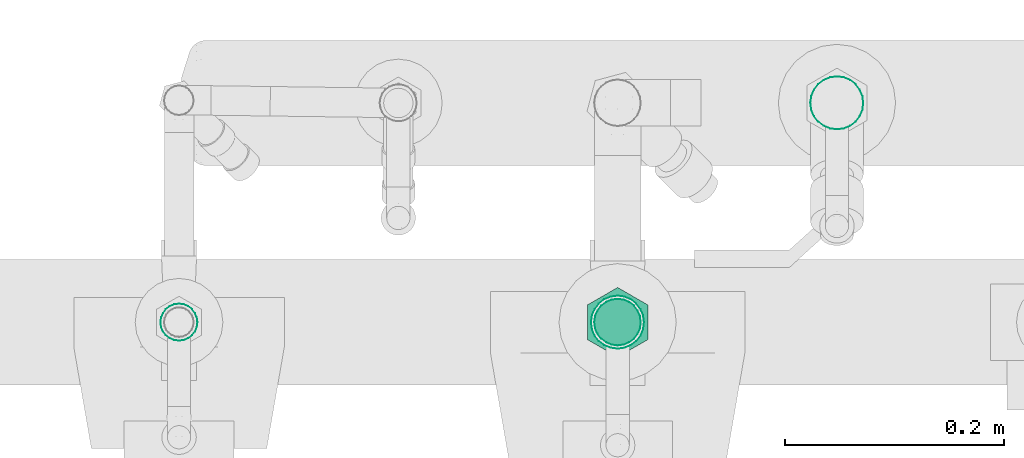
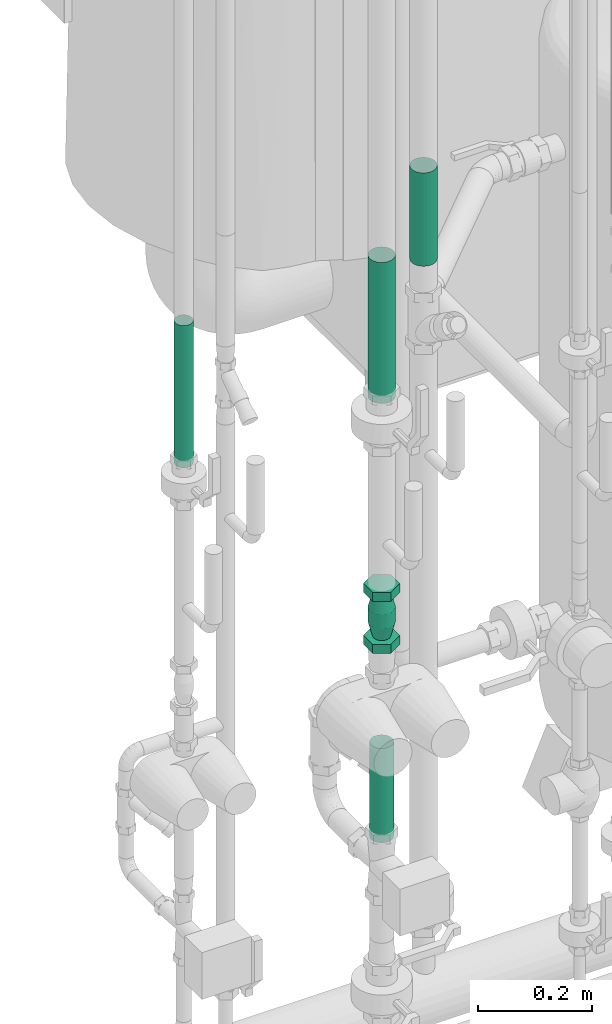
# One storey, part 254 of 374: 4 flow segments, 1 flow controller.
"""IFC2X3 building model written with IfcOpenShell, lengths in metres."""

from ifc_helpers import new_model, si_unit, direction, origin, place, context, subcontext, project, spatial, open_shell, surface_model, source, transform, mapped, element, save


model = new_model("IFC2X3")

# Units and contexts
model_context = context("Model", 3, precision=1e-05, world=origin(), true_north=direction((-0.4480736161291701, 0.8939966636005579)))
body_context = subcontext(model_context, "Body", "Model", "MODEL_VIEW")
ifc_project = project(units=[si_unit("LENGTHUNIT", "METRE"), si_unit("AREAUNIT", "SQUARE_METRE"), si_unit("VOLUMEUNIT", "CUBIC_METRE"), si_unit("PLANEANGLEUNIT", "RADIAN"), si_unit("THERMODYNAMICTEMPERATUREUNIT", "KELVIN"), si_unit("MASSUNIT", "GRAM", prefix="KILO"), si_unit("TIMEUNIT", "SECOND")], contexts=[model_context])

# Site, building, storey
site_placement = place(None, origin())
site = spatial("IfcSite", under=ifc_project, at=site_placement, Name="Site 1", CompositionType="ELEMENT")
building_placement = place(site_placement, origin())
building = spatial("IfcBuilding", under=site, at=building_placement, Name="Undefined", CompositionType="ELEMENT")
storey_placement = place(building_placement, origin())
storey = spatial("IfcBuildingStorey", under=building, at=storey_placement, Name="Rez de chauss\x8ee", CompositionType="ELEMENT", Elevation=0.0)

# Flow controller
shared_shape_1 = source(origin(), body_context, "Body", "SurfaceModel", [
    surface_model("IfcFaceBasedSurfaceModel", [(0.0, 0.0, 0.0), (0.03175426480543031, 0.0, 0.0), (0.03175426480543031, 0.019099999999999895, 0.0), (0.0, 0.019099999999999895, 0.0), (-0.015877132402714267, 0.0, 0.027499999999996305), (-0.015877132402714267, 0.019099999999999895, 0.027499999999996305), (0.0, 0.0, 0.054999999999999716), (0.0, 0.019099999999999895, 0.054999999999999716), (0.03175426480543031, 0.0, 0.054999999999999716), (0.03175426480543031, 0.019099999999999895, 0.054999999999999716), (0.04763139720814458, 0.0, 0.027499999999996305), (0.04763139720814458, 0.019099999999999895, 0.027499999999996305), (-0.0002228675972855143, 0.019099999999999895, 0.027499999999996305), (0.00032572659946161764, 0.019099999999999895, 0.031666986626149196), (-0.007449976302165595, 0.049699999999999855, 0.033750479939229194), (-0.00827286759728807, 0.049699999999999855, 0.027500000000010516), (0.001934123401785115, 0.019099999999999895, 0.03555000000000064), (-0.005037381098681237, 0.049699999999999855, 0.039575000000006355), (0.004492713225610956, 0.019099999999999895, 0.03888441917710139), (-0.0011994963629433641, 0.049699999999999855, 0.04457662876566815), (0.007827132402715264, 0.019099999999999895, 0.041443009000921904), (0.003802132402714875, 0.049699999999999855, 0.04841451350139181), (0.011710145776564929, 0.019099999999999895, 0.04305140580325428), (0.009626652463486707, 0.049699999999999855, 0.050827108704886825), (0.015877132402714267, 0.019099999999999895, 0.04359999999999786), (0.01587713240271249, 0.049699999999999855, 0.0516500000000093), (0.02004411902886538, 0.019099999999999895, 0.04305140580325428), (0.02212761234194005, 0.049699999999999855, 0.050827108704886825), (0.023927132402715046, 0.019099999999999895, 0.041443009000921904), (0.027952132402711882, 0.049699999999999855, 0.04841451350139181), (0.027261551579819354, 0.019099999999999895, 0.03888441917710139), (0.032953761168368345, 0.049699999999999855, 0.04457662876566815), (0.029820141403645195, 0.019099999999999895, 0.03555000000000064), (0.036791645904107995, 0.049699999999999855, 0.039575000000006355), (0.03142853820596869, 0.019099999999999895, 0.031666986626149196), (0.03920424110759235, 0.049699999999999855, 0.033750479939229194), (0.031977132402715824, 0.019099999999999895, 0.027499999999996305), (0.04002713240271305, 0.049699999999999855, 0.027500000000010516), (0.03142853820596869, 0.019099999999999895, 0.023333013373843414), (0.03920424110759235, 0.049699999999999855, 0.021249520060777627), (0.029820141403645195, 0.019099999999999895, 0.019449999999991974), (0.036791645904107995, 0.049699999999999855, 0.015425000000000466), (0.027261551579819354, 0.019099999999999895, 0.016115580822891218), (0.032953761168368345, 0.049699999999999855, 0.010423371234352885), (0.023927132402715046, 0.019099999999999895, 0.013556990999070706), (0.027952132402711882, 0.049699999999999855, 0.006585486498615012), (0.02004411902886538, 0.019099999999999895, 0.011948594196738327), (0.02212761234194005, 0.049699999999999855, 0.004172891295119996), (0.015877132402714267, 0.019099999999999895, 0.011400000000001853), (0.01587713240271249, 0.049699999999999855, 0.003350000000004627), (0.011710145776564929, 0.019099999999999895, 0.011948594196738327), (0.009626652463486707, 0.049699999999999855, 0.004172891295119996), (0.007827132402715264, 0.019099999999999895, 0.013556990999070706), (0.003802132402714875, 0.049699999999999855, 0.006585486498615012), (0.004492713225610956, 0.019099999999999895, 0.016115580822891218), (-0.0011994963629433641, 0.049699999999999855, 0.010423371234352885), (0.001934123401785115, 0.019099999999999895, 0.019449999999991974), (-0.005037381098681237, 0.049699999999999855, 0.015425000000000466), (0.00032572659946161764, 0.019099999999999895, 0.023333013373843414), (-0.007449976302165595, 0.049699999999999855, 0.021249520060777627), (0.022127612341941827, 0.08030000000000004, 0.050827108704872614), (0.015877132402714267, 0.08030000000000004, 0.051650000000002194), (0.027952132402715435, 0.08030000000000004, 0.04841451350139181), (0.03295376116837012, 0.08030000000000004, 0.04457662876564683), (0.03679164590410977, 0.08030000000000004, 0.039574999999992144), (0.039204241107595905, 0.08030000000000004, 0.03375047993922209), (0.04002713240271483, 0.08030000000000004, 0.027499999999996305), (0.039204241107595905, 0.08030000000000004, 0.02124952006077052), (0.03679164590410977, 0.08030000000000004, 0.015425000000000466), (0.03295376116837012, 0.08030000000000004, 0.01042337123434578), (0.027952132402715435, 0.08030000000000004, 0.006585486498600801), (0.022127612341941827, 0.08030000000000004, 0.004172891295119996), (0.015877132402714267, 0.08030000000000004, 0.0033499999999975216), (0.009626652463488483, 0.08030000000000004, 0.004172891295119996), (0.003802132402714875, 0.08030000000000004, 0.006585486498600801), (-0.0011994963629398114, 0.08030000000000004, 0.01042337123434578), (-0.005037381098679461, 0.08030000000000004, 0.015425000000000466), (-0.007449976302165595, 0.08030000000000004, 0.02124952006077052), (-0.008272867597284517, 0.08030000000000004, 0.027499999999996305), (-0.007449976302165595, 0.08030000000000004, 0.03375047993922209), (-0.005037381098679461, 0.08030000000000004, 0.039574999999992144), (-0.0011994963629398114, 0.08030000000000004, 0.04457662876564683), (0.003802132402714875, 0.08030000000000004, 0.04841451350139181), (0.009626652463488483, 0.08030000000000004, 0.050827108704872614), (0.0003257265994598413, 0.11089999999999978, 0.031666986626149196), (-0.0002228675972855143, 0.11089999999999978, 0.027499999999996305), (0.001934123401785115, 0.11089999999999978, 0.03555000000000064), (0.004492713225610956, 0.11089999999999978, 0.03888441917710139), (0.007827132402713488, 0.11089999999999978, 0.04144300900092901), (0.011710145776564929, 0.11089999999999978, 0.04305140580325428), (0.015877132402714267, 0.11089999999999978, 0.04360000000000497), (0.02004411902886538, 0.11089999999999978, 0.04305140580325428), (0.023927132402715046, 0.11089999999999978, 0.04144300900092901), (0.027261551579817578, 0.11089999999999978, 0.03888441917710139), (0.029820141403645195, 0.11089999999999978, 0.03555000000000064), (0.03142853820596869, 0.11089999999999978, 0.031666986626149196), (0.03197713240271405, 0.11089999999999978, 0.027499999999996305), (0.03142853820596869, 0.11089999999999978, 0.023333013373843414), (0.029820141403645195, 0.11089999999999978, 0.01944999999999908), (0.027261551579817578, 0.11089999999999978, 0.016115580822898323), (0.023927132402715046, 0.11089999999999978, 0.013556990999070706), (0.02004411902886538, 0.11089999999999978, 0.011948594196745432), (0.015877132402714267, 0.11089999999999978, 0.011400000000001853), (0.011710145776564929, 0.11089999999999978, 0.011948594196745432), (0.007827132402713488, 0.11089999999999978, 0.013556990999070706), (0.004492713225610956, 0.11089999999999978, 0.016115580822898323), (0.001934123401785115, 0.11089999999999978, 0.01944999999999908), (0.0003257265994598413, 0.11089999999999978, 0.023333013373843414), (0.0, 0.1109, 0.0), (0.03175426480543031, 0.1109, 0.0), (0.03175426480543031, 0.1299999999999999, 0.0), (0.0, 0.1299999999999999, 0.0), (-0.015877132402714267, 0.1109, 0.027499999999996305), (-0.015877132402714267, 0.1299999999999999, 0.027499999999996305), (0.0, 0.1109, 0.054999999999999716), (0.0, 0.1299999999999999, 0.054999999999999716), (0.03175426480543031, 0.1109, 0.054999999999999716), (0.03175426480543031, 0.1299999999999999, 0.054999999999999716), (0.04763139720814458, 0.1109, 0.027499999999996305), (0.04763139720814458, 0.1299999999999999, 0.027499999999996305)], [open_shell([[[0, 1, 2, 3]], [[4, 0, 3, 5]], [[6, 4, 5, 7]], [[8, 6, 7, 9]], [[10, 8, 9, 11]], [[1, 10, 11, 2]], [[1, 0, 4]], [[1, 4, 6]], [[1, 6, 8]], [[1, 8, 10]], [[2, 5, 3]], [[2, 7, 5]], [[2, 9, 7]], [[2, 11, 9]], [[12, 13, 14, 15]], [[13, 16, 17, 14]], [[16, 18, 19, 17]], [[18, 20, 21, 19]], [[20, 22, 23, 21]], [[22, 24, 25, 23]], [[24, 26, 27, 25]], [[26, 28, 29, 27]], [[28, 30, 31, 29]], [[30, 32, 33, 31]], [[32, 34, 35, 33]], [[34, 36, 37, 35]], [[36, 38, 39, 37]], [[38, 40, 41, 39]], [[40, 42, 43, 41]], [[42, 44, 45, 43]], [[44, 46, 47, 45]], [[46, 48, 49, 47]], [[48, 50, 51, 49]], [[50, 52, 53, 51]], [[52, 54, 55, 53]], [[54, 56, 57, 55]], [[56, 58, 59, 57]], [[58, 12, 15, 59]], [[25, 27, 60, 61]], [[27, 29, 62, 60]], [[29, 31, 63, 62]], [[31, 33, 64, 63]], [[33, 35, 65, 64]], [[35, 37, 66, 65]], [[37, 39, 67, 66]], [[39, 41, 68, 67]], [[41, 43, 69, 68]], [[43, 45, 70, 69]], [[45, 47, 71, 70]], [[47, 49, 72, 71]], [[49, 51, 73, 72]], [[51, 53, 74, 73]], [[53, 55, 75, 74]], [[55, 57, 76, 75]], [[57, 59, 77, 76]], [[59, 15, 78, 77]], [[15, 14, 79, 78]], [[14, 17, 80, 79]], [[17, 19, 81, 80]], [[19, 21, 82, 81]], [[21, 23, 83, 82]], [[23, 25, 61, 83]], [[78, 79, 84, 85]], [[79, 80, 86, 84]], [[80, 81, 87, 86]], [[81, 82, 88, 87]], [[82, 83, 89, 88]], [[83, 61, 90, 89]], [[61, 60, 91, 90]], [[60, 62, 92, 91]], [[62, 63, 93, 92]], [[63, 64, 94, 93]], [[64, 65, 95, 94]], [[65, 66, 96, 95]], [[66, 67, 97, 96]], [[67, 68, 98, 97]], [[68, 69, 99, 98]], [[69, 70, 100, 99]], [[70, 71, 101, 100]], [[71, 72, 102, 101]], [[72, 73, 103, 102]], [[73, 74, 104, 103]], [[74, 75, 105, 104]], [[75, 76, 106, 105]], [[76, 77, 107, 106]], [[77, 78, 85, 107]], [[108, 109, 110, 111]], [[112, 108, 111, 113]], [[114, 112, 113, 115]], [[116, 114, 115, 117]], [[118, 116, 117, 119]], [[109, 118, 119, 110]], [[109, 108, 112]], [[109, 112, 114]], [[109, 114, 116]], [[109, 116, 118]], [[110, 113, 111]], [[110, 115, 113]], [[110, 117, 115]], [[110, 119, 117]]])]),
])
flow_controller_placement = place(storey_placement, origin())
element("IfcFlowController", 1, at=flow_controller_placement, inside=storey, Name="Clapet de retenue", ObjectType="Clapet de retenue", context=body_context, shape_type="MappedRepresentation", body=[
    mapped(shared_shape_1, transform((52.4850620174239, 10.733914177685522, 1.2370475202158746), x_axis=(0.0, -1.0, 0.0), y_axis=(0.0, 0.0, 1.0), z_axis=(-1.0, 0.0, 0.0))),
])

# Flow segments
shared_shape_2 = source(origin(), body_context, "Body", "SurfaceModel", [
    surface_model("IfcFaceBasedSurfaceModel", [(0.0, 0.006304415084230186, 7.105427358e-15), (0.0, 0.0, 0.0), (0.3016388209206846, 8.8817842e-16, 7.105427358e-15), (0.3016388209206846, 0.006304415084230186, 7.105427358e-15), (0.0, -0.006089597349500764, -0.0016317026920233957), (0.3016388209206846, -0.006089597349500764, -0.0016317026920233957), (0.0, -0.011549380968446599, -0.004783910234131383), (0.3016388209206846, -0.011549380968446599, -0.004783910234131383), (0.0, -0.016007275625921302, -0.009241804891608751), (0.3016388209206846, -0.016007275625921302, -0.009241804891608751), (0.0, -0.01915948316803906, -0.014701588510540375), (0.3016388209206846, -0.01915948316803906, -0.014701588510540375), (0.0, -0.020791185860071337, -0.020791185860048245), (0.3016388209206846, -0.020791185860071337, -0.020791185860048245), (0.0, -0.020791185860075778, -0.027095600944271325), (0.3016388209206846, -0.020791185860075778, -0.027095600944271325), (0.0, -0.01915948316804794, -0.03318519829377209), (0.3016388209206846, -0.01915948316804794, -0.03318519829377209), (0.0, -0.01600727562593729, -0.038644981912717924), (0.3016388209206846, -0.01600727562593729, -0.038644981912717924), (0.0, -0.011549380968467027, -0.0431028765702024), (0.3016388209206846, -0.011549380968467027, -0.0431028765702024), (0.0, -0.006089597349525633, -0.04625508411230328), (0.3016388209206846, -0.006089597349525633, -0.04625508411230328), (0.0, -2.4868995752e-14, -0.04788678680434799), (0.3016388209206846, -2.4868995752e-14, -0.04788678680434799), (0.0, 0.006304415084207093, -0.047886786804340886), (0.3016388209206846, 0.006304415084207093, -0.047886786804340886), (0.0, 0.012394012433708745, -0.046255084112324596), (0.3016388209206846, 0.012394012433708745, -0.046255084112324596), (0.0, 0.01785379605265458, -0.0431028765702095), (0.3016388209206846, 0.01785379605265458, -0.0431028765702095), (0.0, 0.022311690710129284, -0.03864498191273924), (0.3016388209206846, 0.022311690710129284, -0.03864498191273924), (0.0, 0.02546389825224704, -0.03318519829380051), (0.3016388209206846, 0.02546389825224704, -0.03318519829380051), (0.0, 0.02709560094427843, -0.027095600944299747), (0.3016388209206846, 0.02709560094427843, -0.027095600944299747), (0.0, 0.02709560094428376, -0.02079118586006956), (0.3016388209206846, 0.02709560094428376, -0.02079118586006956), (0.0, 0.025463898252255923, -0.014701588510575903), (0.3016388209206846, 0.025463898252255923, -0.014701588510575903), (0.0, 0.02231169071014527, -0.009241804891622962), (0.3016388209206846, 0.02231169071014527, -0.009241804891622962), (0.0, 0.01785379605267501, -0.004783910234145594), (0.3016388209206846, 0.01785379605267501, -0.004783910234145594), (0.0, 0.012394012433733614, -0.0016317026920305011), (0.3016388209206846, 0.012394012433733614, -0.0016317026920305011)], [open_shell([[[0, 1, 2, 3]], [[1, 4, 5, 2]], [[4, 6, 7, 5]], [[6, 8, 9, 7]], [[8, 10, 11, 9]], [[10, 12, 13, 11]], [[12, 14, 15, 13]], [[14, 16, 17, 15]], [[16, 18, 19, 17]], [[18, 20, 21, 19]], [[20, 22, 23, 21]], [[22, 24, 25, 23]], [[24, 26, 27, 25]], [[26, 28, 29, 27]], [[28, 30, 31, 29]], [[30, 32, 33, 31]], [[32, 34, 35, 33]], [[34, 36, 37, 35]], [[36, 38, 39, 37]], [[38, 40, 41, 39]], [[40, 42, 43, 41]], [[42, 44, 45, 43]], [[44, 46, 47, 45]], [[46, 0, 3, 47]]])]),
])
flow_segment_1_placement = place(storey_placement, origin())
element("IfcFlowSegment", 2, at=flow_segment_1_placement, inside=storey, Name="Tube acier d'après DIN 2448", ObjectType="Tube acier d'après DIN 2448", context=body_context, shape_type="MappedRepresentation", body=[
    mapped(shared_shape_2, transform((52.48088912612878, 10.724287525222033, 1.767889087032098), x_axis=(0.0, 0.0, 1.0), y_axis=(0.13052619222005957, -0.9914448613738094, 0.0), z_axis=(0.9914448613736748, 0.13052619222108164, 0.0))),
])
shared_shape_3 = source(origin(), body_context, "Body", "SurfaceModel", [
    surface_model("IfcFaceBasedSurfaceModel", [(0.0, 0.006304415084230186, 7.105427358e-15), (0.0, 0.0, 0.0), (0.19952957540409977, 8.8817842e-16, 0.0), (0.19952957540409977, 0.00630441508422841, 0.0), (0.0, -0.006089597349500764, -0.0016317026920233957), (0.19952957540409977, -0.006089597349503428, -0.0016317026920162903), (0.0, -0.011549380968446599, -0.004783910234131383), (0.19952957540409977, -0.011549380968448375, -0.004783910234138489), (0.0, -0.016007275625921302, -0.009241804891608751), (0.19952957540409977, -0.016007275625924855, -0.009241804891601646), (0.0, -0.01915948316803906, -0.014701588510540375), (0.19952957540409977, -0.019159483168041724, -0.014701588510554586), (0.0, -0.020791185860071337, -0.020791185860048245), (0.19952957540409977, -0.02079118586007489, -0.020791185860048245), (0.0, -0.020791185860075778, -0.027095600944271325), (0.19952957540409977, -0.020791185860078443, -0.02709560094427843), (0.0, -0.01915948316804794, -0.03318519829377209), (0.19952957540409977, -0.019159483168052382, -0.033185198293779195), (0.0, -0.01600727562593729, -0.038644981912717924), (0.19952957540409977, -0.016007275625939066, -0.03864498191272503), (0.0, -0.011549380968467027, -0.0431028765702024), (0.19952957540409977, -0.011549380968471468, -0.0431028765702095), (0.0, -0.006089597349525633, -0.04625508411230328), (0.19952957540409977, -0.006089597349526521, -0.04625508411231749), (0.0, -2.4868995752e-14, -0.04788678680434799), (0.19952957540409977, -2.6645352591e-14, -0.0478867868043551), (0.0, 0.006304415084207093, -0.047886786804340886), (0.19952957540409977, 0.0063044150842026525, -0.0478867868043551), (0.0, 0.012394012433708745, -0.046255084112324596), (0.19952957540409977, 0.012394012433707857, -0.04625508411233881), (0.0, 0.01785379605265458, -0.0431028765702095), (0.19952957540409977, 0.017853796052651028, -0.04310287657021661), (0.0, 0.022311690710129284, -0.03864498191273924), (0.19952957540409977, 0.022311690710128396, -0.038644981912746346), (0.0, 0.02546389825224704, -0.03318519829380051), (0.19952957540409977, 0.025463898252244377, -0.033185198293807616), (0.0, 0.02709560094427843, -0.027095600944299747), (0.19952957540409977, 0.027095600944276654, -0.027095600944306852), (0.0, 0.02709560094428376, -0.02079118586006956), (0.19952957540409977, 0.027095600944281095, -0.020791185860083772), (0.0, 0.025463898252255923, -0.014701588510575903), (0.19952957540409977, 0.025463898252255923, -0.014701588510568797), (0.0, 0.02231169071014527, -0.009241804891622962), (0.19952957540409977, 0.02231169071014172, -0.009241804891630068), (0.0, 0.01785379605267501, -0.004783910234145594), (0.19952957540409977, 0.017853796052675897, -0.004783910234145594), (0.0, 0.012394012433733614, -0.0016317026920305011), (0.19952957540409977, 0.012394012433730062, -0.0016317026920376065)], [open_shell([[[0, 1, 2, 3]], [[1, 4, 5, 2]], [[4, 6, 7, 5]], [[6, 8, 9, 7]], [[8, 10, 11, 9]], [[10, 12, 13, 11]], [[12, 14, 15, 13]], [[14, 16, 17, 15]], [[16, 18, 19, 17]], [[18, 20, 21, 19]], [[20, 22, 23, 21]], [[22, 24, 25, 23]], [[24, 26, 27, 25]], [[26, 28, 29, 27]], [[28, 30, 31, 29]], [[30, 32, 33, 31]], [[32, 34, 35, 33]], [[34, 36, 37, 35]], [[36, 38, 39, 37]], [[38, 40, 41, 39]], [[40, 42, 43, 41]], [[42, 44, 45, 43]], [[44, 46, 47, 45]], [[46, 0, 3, 47]]])]),
])
flow_segment_2_placement = place(storey_placement, origin())
element("IfcFlowSegment", 3, at=flow_segment_2_placement, inside=storey, Name="Tube acier d'après DIN 2448", ObjectType="Tube acier d'après DIN 2448", context=body_context, shape_type="MappedRepresentation", body=[
    mapped(shared_shape_3, transform((52.68088912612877, 10.924287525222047, 1.8699983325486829), x_axis=(0.0, 0.0, 1.0), y_axis=(0.13052619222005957, -0.9914448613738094, 0.0), z_axis=(0.9914448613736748, 0.13052619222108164, 0.0))),
])
shared_shape_4 = source(origin(), body_context, "Body", "SurfaceModel", [
    surface_model("IfcFaceBasedSurfaceModel", [(0.0, 0.004398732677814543, 0.0), (0.0, 0.0, 0.0), (0.3038388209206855, -8.8817842e-16, 0.0), (0.3038388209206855, 0.004398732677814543, 0.0), (0.0, -0.004248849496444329, -0.00113847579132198), (0.3038388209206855, -0.004248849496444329, -0.00113847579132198), (0.0, -0.008058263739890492, -0.003337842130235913), (0.3038388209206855, -0.008058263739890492, -0.003337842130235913), (0.0, -0.01116863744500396, -0.0064482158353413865), (0.3038388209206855, -0.01116863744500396, -0.0064482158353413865), (0.0, -0.013368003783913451, -0.010257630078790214), (0.3038388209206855, -0.013368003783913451, -0.010257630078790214), (0.0, -0.014506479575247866, -0.014506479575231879), (0.3038388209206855, -0.014506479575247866, -0.014506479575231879), (0.0, -0.01450647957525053, -0.01890521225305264), (0.3038388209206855, -0.01450647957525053, -0.01890521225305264), (0.0, -0.013368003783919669, -0.023154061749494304), (0.3038388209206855, -0.013368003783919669, -0.023154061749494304), (0.0, -0.011168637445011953, -0.02696347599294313), (0.3038388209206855, -0.011168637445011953, -0.02696347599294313), (0.0, -0.008058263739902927, -0.03007384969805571), (0.3038388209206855, -0.008058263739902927, -0.03007384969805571), (0.0, -0.004248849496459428, -0.03227321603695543), (0.3038388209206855, -0.004248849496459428, -0.03227321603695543), (0.0, -1.5099033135e-14, -0.03341169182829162), (0.3038388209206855, -1.5099033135e-14, -0.03341169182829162), (0.0, 0.00439873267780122, -0.03341169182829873), (0.3038388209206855, 0.00439873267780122, -0.03341169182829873), (0.0, 0.008647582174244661, -0.03227321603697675), (0.3038388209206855, 0.008647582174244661, -0.03227321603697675), (0.0, 0.012456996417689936, -0.030073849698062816), (0.3038388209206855, 0.012456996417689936, -0.030073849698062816), (0.0, 0.01556737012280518, -0.026963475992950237), (0.3038388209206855, 0.01556737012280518, -0.026963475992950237), (0.0, 0.017766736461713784, -0.023154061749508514), (0.3038388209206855, 0.017766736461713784, -0.023154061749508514), (0.0, 0.018905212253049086, -0.01890521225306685), (0.3038388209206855, 0.018905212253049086, -0.01890521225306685), (0.0, 0.018905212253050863, -0.01450647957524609), (0.3038388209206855, 0.018905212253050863, -0.01450647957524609), (0.0, 0.01776673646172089, -0.01025763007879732), (0.3038388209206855, 0.01776673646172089, -0.01025763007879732), (0.0, 0.015567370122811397, -0.006448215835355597), (0.3038388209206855, 0.015567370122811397, -0.006448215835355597), (0.0, 0.012456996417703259, -0.0033378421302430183), (0.3038388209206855, 0.012456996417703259, -0.0033378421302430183), (0.0, 0.00864758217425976, -0.0011384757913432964), (0.3038388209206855, 0.00864758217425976, -0.0011384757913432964)], [open_shell([[[0, 1, 2, 3]], [[1, 4, 5, 2]], [[4, 6, 7, 5]], [[6, 8, 9, 7]], [[8, 10, 11, 9]], [[10, 12, 13, 11]], [[12, 14, 15, 13]], [[14, 16, 17, 15]], [[16, 18, 19, 17]], [[18, 20, 21, 19]], [[20, 22, 23, 21]], [[22, 24, 25, 23]], [[24, 26, 27, 25]], [[26, 28, 29, 27]], [[28, 30, 31, 29]], [[30, 32, 33, 31]], [[32, 34, 35, 33]], [[34, 36, 37, 35]], [[36, 38, 39, 37]], [[38, 40, 41, 39]], [[40, 42, 43, 41]], [[42, 44, 45, 43]], [[44, 46, 47, 45]], [[46, 0, 3, 47]]])]),
])
flow_segment_3_placement = place(storey_placement, origin())
element("IfcFlowSegment", 4, at=flow_segment_3_placement, inside=storey, Name="Tube acier d'après DIN 2448", ObjectType="Tube acier d'après DIN 2448", context=body_context, shape_type="MappedRepresentation", body=[
    mapped(shared_shape_4, transform((52.07383786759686, 10.722398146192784, 1.7656890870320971), x_axis=(0.0, 0.0, 1.0), y_axis=(0.13052619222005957, -0.9914448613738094, 0.0), z_axis=(0.9914448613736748, 0.13052619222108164, 0.0))),
])
shared_shape_5 = source(origin(), body_context, "Body", "SurfaceModel", [
    surface_model("IfcFaceBasedSurfaceModel", [(0.0, 0.005534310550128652, 0.0), (0.0, 0.0, 0.0), (0.20144874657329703, -8.8817842e-16, 7.105427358e-15), (0.20144874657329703, 0.005534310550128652, 0.0), (0.0, -0.00534573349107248, -0.0014323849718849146), (0.20144874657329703, -0.00534573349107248, -0.0014323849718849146), (0.0, -0.010138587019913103, -0.004199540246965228), (0.20144874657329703, -0.010138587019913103, -0.004199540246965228), (0.0, -0.01405193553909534, -0.008112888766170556), (0.20144874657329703, -0.01405193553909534, -0.008112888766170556), (0.0, -0.016819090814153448, -0.012905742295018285), (0.20144874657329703, -0.016819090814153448, -0.012905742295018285), (0.0, -0.018251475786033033, -0.018251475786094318), (0.20144874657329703, -0.018251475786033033, -0.018251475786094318), (0.0, -0.0182514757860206, -0.02378578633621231), (0.20144874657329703, -0.0182514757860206, -0.02378578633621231), (0.0, -0.01681909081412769, -0.029131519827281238), (0.20144874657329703, -0.01681909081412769, -0.029131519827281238), (0.0, -0.014051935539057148, -0.03392437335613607), (0.20144874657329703, -0.014051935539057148, -0.03392437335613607), (0.0, -0.010138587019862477, -0.037837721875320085), (0.20144874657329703, -0.010138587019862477, -0.037837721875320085), (0.0, -0.005345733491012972, -0.040604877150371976), (0.20144874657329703, -0.005345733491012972, -0.040604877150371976), (0.0, 6.4837024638e-14, -0.042037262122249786), (0.20144874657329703, 6.4837024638e-14, -0.042037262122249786), (0.0, 0.005534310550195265, -0.04203726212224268), (0.20144874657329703, 0.005534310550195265, -0.04203726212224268), (0.0, 0.010880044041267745, -0.04060487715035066), (0.20144874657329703, 0.010880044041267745, -0.04060487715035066), (0.0, 0.01567289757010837, -0.03783772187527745), (0.20144874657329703, 0.01567289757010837, -0.03783772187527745), (0.0, 0.019586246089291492, -0.033924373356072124), (0.20144874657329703, 0.019586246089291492, -0.033924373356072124), (0.0, 0.0223534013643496, -0.029131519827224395), (0.20144874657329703, 0.0223534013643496, -0.029131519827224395), (0.0, 0.02378578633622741, -0.023785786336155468), (0.20144874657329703, 0.02378578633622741, -0.023785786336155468), (0.0, 0.023785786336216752, -0.01825147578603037), (0.20144874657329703, 0.023785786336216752, -0.01825147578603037), (0.0, 0.022353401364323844, -0.012905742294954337), (0.20144874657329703, 0.022353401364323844, -0.012905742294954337), (0.0, 0.019586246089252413, -0.008112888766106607), (0.20144874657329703, 0.019586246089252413, -0.008112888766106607), (0.0, 0.015672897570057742, -0.004199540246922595), (0.20144874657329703, 0.015672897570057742, -0.004199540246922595), (0.0, 0.010880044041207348, -0.0014323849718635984), (0.20144874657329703, 0.010880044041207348, -0.0014323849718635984)], [open_shell([[[0, 1, 2, 3]], [[1, 4, 5, 2]], [[4, 6, 7, 5]], [[6, 8, 9, 7]], [[8, 10, 11, 9]], [[10, 12, 13, 11]], [[12, 14, 15, 13]], [[14, 16, 17, 15]], [[16, 18, 19, 17]], [[18, 20, 21, 19]], [[20, 22, 23, 21]], [[22, 24, 25, 23]], [[24, 26, 27, 25]], [[26, 28, 29, 27]], [[28, 30, 31, 29]], [[30, 32, 33, 31]], [[32, 34, 35, 33]], [[34, 36, 37, 35]], [[36, 38, 39, 37]], [[38, 40, 41, 39]], [[40, 42, 43, 41]], [[42, 44, 45, 43]], [[44, 46, 47, 45]], [[46, 0, 3, 47]]])]),
])
flow_segment_4_placement = place(storey_placement, origin())
element("IfcFlowSegment", 5, at=flow_segment_4_placement, inside=storey, Name="Tube acier d'après DIN 2448", ObjectType="Tube acier d'après DIN 2448", context=body_context, shape_type="MappedRepresentation", body=[
    mapped(shared_shape_5, transform((52.478039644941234, 10.72352400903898, 0.8276512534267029), x_axis=(0.0, 0.0, 1.0), y_axis=(0.13052619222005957, -0.9914448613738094, 0.0), z_axis=(0.9914448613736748, 0.13052619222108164, 0.0))),
])

save(model, "model.ifc")
